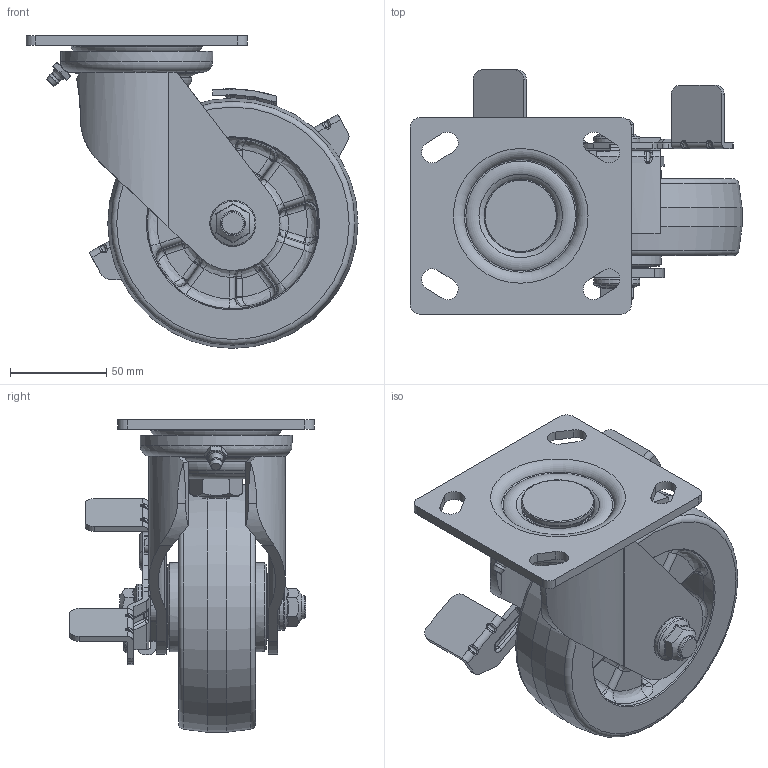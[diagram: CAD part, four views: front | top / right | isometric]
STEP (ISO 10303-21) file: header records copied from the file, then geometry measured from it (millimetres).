
FILE_DESCRIPTION((''),'2;1');
FILE_NAME('C:\Documents and Settings\Administrator\바탕 화면\3D STEP\PM-SERIES\PM-130B-SF\PM-130B-SF.stp','2010-12-27T15:04:43',('Administrator'),(''),'Autodesk Inventor 2009','Autodesk Inventor 2009','');
FILE_SCHEMA(('AUTOMOTIVE_DESIGN { 1 0 10303 214 1 1 1 1 }'));
Length unit declared in the file: millimetre
Products named in the file (1): PM-130B-SF
Bounding box: 172.5 x 127 x 162.5 mm (x, y, z)
Volume: 596071.1 mm3; surface area: 197990.1 mm2
Topology: 5 solids, 29 shells, 1082 faces, 2775 edges, 1667 vertices
Faces by surface type: bspline 425, cylinder 269, plane 233, cone 64, torus 49, sphere 42
Full cylindrical faces by diameter (mm): 6 x1, 12 x1, 16 x2, 18 x3, 21.5 x1, 24 x2, 30.5 x2, 35 x2, 35.18 x2, 38 x1, 41.192 x1, 61.087 x1, 69 x1, 79 x1, 130 x1
Entity records: 65276 total; most frequent: CARTESIAN_POINT 42233, ORIENTED_EDGE 4944, DIRECTION 4415, EDGE_CURVE 2472, AXIS2_PLACEMENT_3D 1874, VERTEX_POINT 1604, EDGE_LOOP 1268, FACE_OUTER_BOUND 1082
